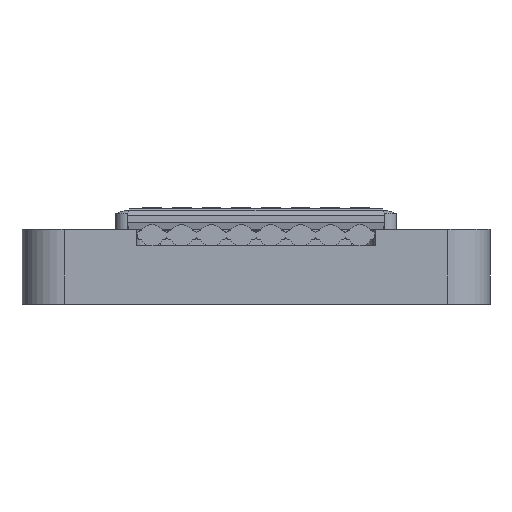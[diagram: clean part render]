
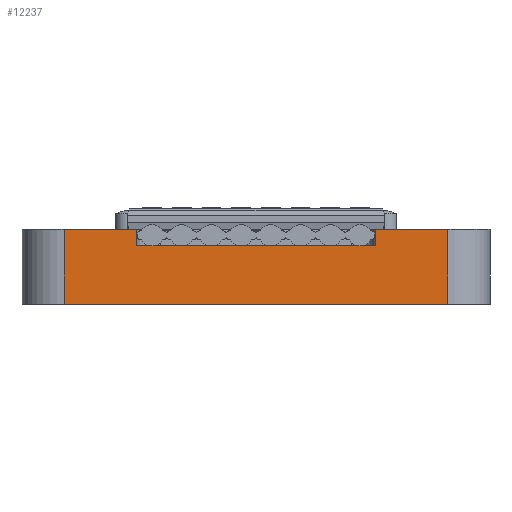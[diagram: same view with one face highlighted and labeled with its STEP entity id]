
A CAD part, front view. The second image highlights one B-rep face of the part: STEP entity #12237.
In plain terms, the highlighted planar face has unit normal (0, -1, 0) as drawn and (0, 0, 1) by its records, which use the part's own axes.
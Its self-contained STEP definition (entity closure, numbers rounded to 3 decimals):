
#258 = VERTEX_POINT ( 'NONE', #6686 ) ;
#279 = CARTESIAN_POINT ( 'NONE',  ( 8.2, 3.2, 10. ) ) ;
#1199 = VECTOR ( 'NONE', #11840, 1000. ) ;
#1288 = CARTESIAN_POINT ( 'NONE',  ( -5.1, 2.5, 10. ) ) ;
#2000 = ORIENTED_EDGE ( 'NONE', *, *, #5376, .F. ) ;
#2367 = CARTESIAN_POINT ( 'NONE',  ( -8.2, 3.2, 10. ) ) ;
#2650 = ORIENTED_EDGE ( 'NONE', *, *, #18664, .F. ) ;
#2886 = VERTEX_POINT ( 'NONE', #12353 ) ;
#3045 = CARTESIAN_POINT ( 'NONE',  ( 5.1, 2.5, 10. ) ) ;
#3528 = EDGE_CURVE ( 'NONE', #7284, #18452, #3949, .T. ) ;
#3640 = VECTOR ( 'NONE', #7755, 1000. ) ;
#3741 = AXIS2_PLACEMENT_3D ( 'NONE', #19722, #3967, #15165 ) ;
#3949 = LINE ( 'NONE', #1288, #4171 ) ;
#3967 = DIRECTION ( 'NONE',  ( 0., 0., -1. ) ) ;
#4171 = VECTOR ( 'NONE', #18448, 1000. ) ;
#5376 = EDGE_CURVE ( 'NONE', #10041, #18452, #16074, .T. ) ;
#6246 = DIRECTION ( 'NONE',  ( 1., 0., 0. ) ) ;
#6379 = LINE ( 'NONE', #3045, #7091 ) ;
#6686 = CARTESIAN_POINT ( 'NONE',  ( -8.2, 0., 10. ) ) ;
#6840 = VERTEX_POINT ( 'NONE', #14979 ) ;
#7091 = VECTOR ( 'NONE', #14306, 1000. ) ;
#7284 = VERTEX_POINT ( 'NONE', #13541 ) ;
#7338 = VECTOR ( 'NONE', #19754, 1000. ) ;
#7755 = DIRECTION ( 'NONE',  ( 1., 0., 0. ) ) ;
#8116 = CARTESIAN_POINT ( 'NONE',  ( 8.2, 3.2, 10. ) ) ;
#8130 = EDGE_CURVE ( 'NONE', #12280, #2886, #6379, .T. ) ;
#8190 = EDGE_CURVE ( 'NONE', #6840, #12113, #10165, .T. ) ;
#8345 = VECTOR ( 'NONE', #6246, 1000. ) ;
#8667 = EDGE_CURVE ( 'NONE', #2886, #12113, #12607, .T. ) ;
#9436 = FACE_OUTER_BOUND ( 'NONE', #19598, .T. ) ;
#9495 = CARTESIAN_POINT ( 'NONE',  ( -5.1, 3.2, 10. ) ) ;
#10041 = VERTEX_POINT ( 'NONE', #12186 ) ;
#10165 = LINE ( 'NONE', #279, #20374 ) ;
#10339 = CARTESIAN_POINT ( 'NONE',  ( -5.1, 2.5, 10. ) ) ;
#10378 = ORIENTED_EDGE ( 'NONE', *, *, #8190, .T. ) ;
#11314 = DIRECTION ( 'NONE',  ( 0., 1., 0. ) ) ;
#11834 = CARTESIAN_POINT ( 'NONE',  ( 5.1, 2.5, 10. ) ) ;
#11840 = DIRECTION ( 'NONE',  ( 1., 0., 0. ) ) ;
#12113 = VERTEX_POINT ( 'NONE', #8116 ) ;
#12186 = CARTESIAN_POINT ( 'NONE',  ( -8.2, 3.2, 10. ) ) ;
#12237 = ADVANCED_FACE ( 'NONE', ( #9436 ), #16604, .F. ) ;
#12280 = VERTEX_POINT ( 'NONE', #11834 ) ;
#12353 = CARTESIAN_POINT ( 'NONE',  ( 5.1, 3.2, 10. ) ) ;
#12607 = LINE ( 'NONE', #13859, #3640 ) ;
#12632 = CARTESIAN_POINT ( 'NONE',  ( -10., 3.2, 10. ) ) ;
#13541 = CARTESIAN_POINT ( 'NONE',  ( -5.1, 2.5, 10. ) ) ;
#13859 = CARTESIAN_POINT ( 'NONE',  ( -10., 3.2, 10. ) ) ;
#14306 = DIRECTION ( 'NONE',  ( 0., 1., 0. ) ) ;
#14979 = CARTESIAN_POINT ( 'NONE',  ( 8.2, 0., 10. ) ) ;
#15165 = DIRECTION ( 'NONE',  ( -1., 0., 0. ) ) ;
#15592 = LINE ( 'NONE', #10339, #1199 ) ;
#16074 = LINE ( 'NONE', #12632, #8345 ) ;
#16264 = CARTESIAN_POINT ( 'NONE',  ( -10., 0., 10. ) ) ;
#16404 = DIRECTION ( 'NONE',  ( 1., 0., 0. ) ) ;
#16604 = PLANE ( 'NONE',  #3741 ) ;
#16809 = VECTOR ( 'NONE', #16404, 1000. ) ;
#17009 = ORIENTED_EDGE ( 'NONE', *, *, #19784, .T. ) ;
#17594 = ORIENTED_EDGE ( 'NONE', *, *, #8667, .F. ) ;
#17642 = ORIENTED_EDGE ( 'NONE', *, *, #8130, .F. ) ;
#17815 = LINE ( 'NONE', #16264, #16809 ) ;
#18114 = ORIENTED_EDGE ( 'NONE', *, *, #20253, .T. ) ;
#18448 = DIRECTION ( 'NONE',  ( 0., 1., 0. ) ) ;
#18452 = VERTEX_POINT ( 'NONE', #9495 ) ;
#18664 = EDGE_CURVE ( 'NONE', #7284, #12280, #15592, .T. ) ;
#19187 = ORIENTED_EDGE ( 'NONE', *, *, #3528, .T. ) ;
#19598 = EDGE_LOOP ( 'NONE', ( #2000, #17009, #18114, #10378, #17594, #17642, #2650, #19187 ) ) ;
#19722 = CARTESIAN_POINT ( 'NONE',  ( -10., 3.2, 10. ) ) ;
#19754 = DIRECTION ( 'NONE',  ( 0., -1., 0. ) ) ;
#19784 = EDGE_CURVE ( 'NONE', #10041, #258, #20552, .T. ) ;
#20253 = EDGE_CURVE ( 'NONE', #258, #6840, #17815, .T. ) ;
#20374 = VECTOR ( 'NONE', #11314, 1000. ) ;
#20552 = LINE ( 'NONE', #2367, #7338 ) ;
